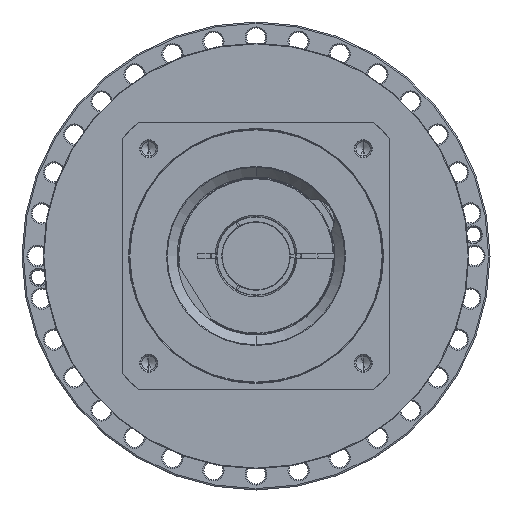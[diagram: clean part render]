
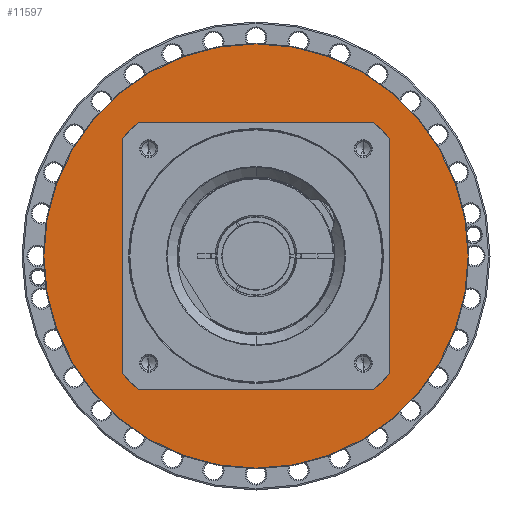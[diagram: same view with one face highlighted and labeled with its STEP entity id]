
A CAD part, left-side view. The second image highlights one B-rep face of the part: STEP entity #11597.
In plain terms, the highlighted planar face has unit normal (-1, 0, 0) as drawn and (1, 0, 0) by its records, which use the part's own axes.
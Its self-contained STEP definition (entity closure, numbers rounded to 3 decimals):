
#11124=CARTESIAN_POINT('',(-5.,0.,
0.));
#11125=DIRECTION('',(-1.,0.,0.));
#11126=DIRECTION('',(0.,1.,0.));
#11127=AXIS2_PLACEMENT_3D('',#11124,#11125,#11126);
#11129=CARTESIAN_POINT('',(-5.,0.,
0.));
#11130=DIRECTION('',(-1.,0.,0.));
#11131=DIRECTION('',(0.,-1.,0.));
#11132=AXIS2_PLACEMENT_3D('',#11129,#11130,#11131);
#11134=CARTESIAN_POINT('',(-5.,0.,0.));
#11135=DIRECTION('',(-1.,0.,0.));
#11136=DIRECTION('',(0.,-1.,0.));
#11137=AXIS2_PLACEMENT_3D('',#11134,#11135,#11136);
#11139=CARTESIAN_POINT('',(-5.,0.,0.));
#11140=DIRECTION('',(-1.,0.,0.));
#11141=DIRECTION('',(0.,1.,0.));
#11142=AXIS2_PLACEMENT_3D('',#11139,#11140,#11141);
#11168=CARTESIAN_POINT('',(-5.,-150.5,0.));
#11169=CARTESIAN_POINT('',(-5.,150.5,0.));
#11170=VERTEX_POINT('',#11168);
#11171=VERTEX_POINT('',#11169);
#11216=CARTESIAN_POINT('',(-5.,95.,
0.));
#11217=CARTESIAN_POINT('',(-5.,-95.,0.));
#11218=VERTEX_POINT('',#11216);
#11219=VERTEX_POINT('',#11217);
#11582=CARTESIAN_POINT('',(-5.,0.,0.));
#11583=DIRECTION('',(1.,0.,0.));
#11584=DIRECTION('',(0.,-1.,0.));
#11585=AXIS2_PLACEMENT_3D('',#11582,#11583,#11584);
#11586=PLANE('',#11585);
#11587=ORIENTED_EDGE('',*,*,#11523,.T.);
#11588=ORIENTED_EDGE('',*,*,#11538,.T.);
#11589=EDGE_LOOP('',(#11587,#11588));
#11590=FACE_OUTER_BOUND('',#11589,.F.);
#11592=ORIENTED_EDGE('',*,*,#11591,.F.);
#11594=ORIENTED_EDGE('',*,*,#11593,.F.);
#11595=EDGE_LOOP('',(#11592,#11594));
#11596=FACE_BOUND('',#11595,.F.);
#11597=ADVANCED_FACE('',(#11590,#11596),#11586,.T.);
#11128=CIRCLE('',#11127,95.);
#11133=CIRCLE('',#11132,95.);
#11138=CIRCLE('',#11137,150.5);
#11143=CIRCLE('',#11142,150.5);
#11523=EDGE_CURVE('',#11170,#11171,#11138,.T.);
#11538=EDGE_CURVE('',#11171,#11170,#11143,.T.);
#11591=EDGE_CURVE('',#11218,#11219,#11128,.T.);
#11593=EDGE_CURVE('',#11219,#11218,#11133,.T.);
